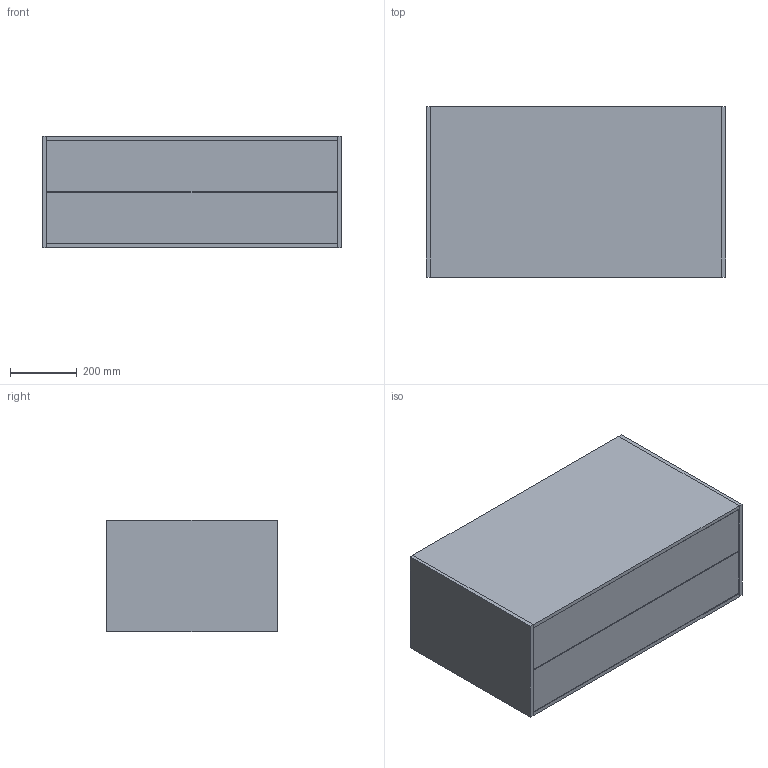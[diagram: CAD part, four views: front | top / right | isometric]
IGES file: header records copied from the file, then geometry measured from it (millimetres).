
Start section: Data from Parasolid IGES Translator 19.0.9, Copyright(c) 2006 Siemens PL M Software. All Rights Reserved.
Global section: file name: noorth-FJ-H 33,5 D 51,2 W 90_2013.igs; native system: By Siemens PLM Incorporated; preprocessor: XPlus GENERIC/IGES 19.0.9; author: Noname; organization: Noname; date: 20200507.120552; units: metre
Bounding box: 900 x 512 x 335 mm (x, y, z)
Volume: 20777646 mm3; surface area: 3751086 mm2
Topology: 7 solids, 7 shells, 42 faces, 84 edges, 56 vertices
Faces by surface type: plane 42
